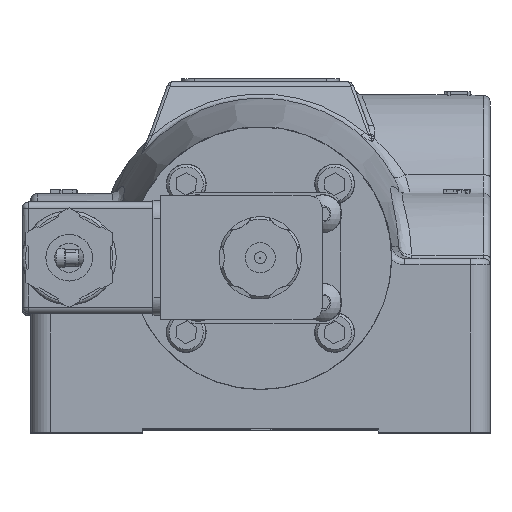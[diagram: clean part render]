
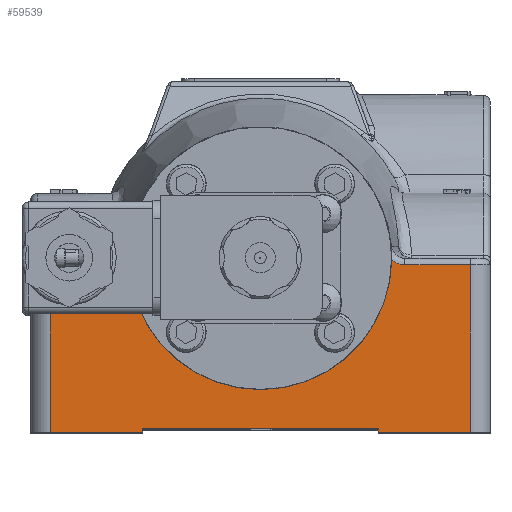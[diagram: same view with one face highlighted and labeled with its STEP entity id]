
A CAD part, top view. The second image highlights one B-rep face of the part: STEP entity #59539.
In plain terms, the highlighted planar face has unit normal (0, 0, 1).
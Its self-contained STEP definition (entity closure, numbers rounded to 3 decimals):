
#1441=B_SPLINE_CURVE_WITH_KNOTS('',3,(#103365,#103366,#103367,#103368,#103369),
 .UNSPECIFIED.,.F.,.F.,(4,1,4),(0.,0.291,0.347),
 .UNSPECIFIED.);
#1448=B_SPLINE_CURVE_WITH_KNOTS('',3,(#103547,#103548,#103549,#103550),
 .UNSPECIFIED.,.F.,.F.,(4,4),(0.356,0.703),
 .UNSPECIFIED.);
#3575=LINE('',#102093,#7318);
#3641=LINE('',#103131,#7384);
#3646=LINE('',#103144,#7389);
#3649=LINE('',#103148,#7392);
#3650=LINE('',#103150,#7393);
#3662=LINE('',#103202,#7405);
#3668=LINE('',#103259,#7411);
#3670=LINE('',#103433,#7413);
#3678=LINE('',#103669,#7421);
#7318=VECTOR('',#75137,2.223);
#7384=VECTOR('',#75389,5.715);
#7389=VECTOR('',#75402,2.223);
#7392=VECTOR('',#75407,0.079);
#7393=VECTOR('',#75410,0.079);
#7405=VECTOR('',#75450,4.048);
#7411=VECTOR('',#75528,1.583);
#7413=VECTOR('',#75536,1.583);
#7421=VECTOR('',#75632,4.048);
#10663=PLANE('',#64593);
#14279=FACE_OUTER_BOUND('',#18325,.T.);
#18325=EDGE_LOOP('',(#45714,#45715,#45716,#45717,#45718,#45719,#45720,#45721,
#45722,#45723,#45724,#45725));
#22027=CIRCLE('',#64464,3.178);
#25917=VERTEX_POINT('',#102077);
#25923=VERTEX_POINT('',#102091);
#25980=VERTEX_POINT('',#103128);
#25981=VERTEX_POINT('',#103130);
#25983=VERTEX_POINT('',#103140);
#25985=VERTEX_POINT('',#103143);
#26002=VERTEX_POINT('',#103201);
#26016=VERTEX_POINT('',#103255);
#26020=VERTEX_POINT('',#103337);
#26025=VERTEX_POINT('',#103426);
#26028=VERTEX_POINT('',#103431);
#26050=VERTEX_POINT('',#103526);
#32515=EDGE_CURVE('',#25917,#25923,#3575,.T.);
#32640=EDGE_CURVE('',#25981,#25980,#3641,.T.);
#32646=EDGE_CURVE('',#25985,#25983,#3646,.T.);
#32649=EDGE_CURVE('',#25923,#25981,#3649,.T.);
#32650=EDGE_CURVE('',#25980,#25985,#3650,.T.);
#32672=EDGE_CURVE('',#25917,#26002,#3662,.T.);
#32701=EDGE_CURVE('',#26002,#26016,#3668,.T.);
#32706=EDGE_CURVE('',#26016,#26020,#1441,.T.);
#32715=EDGE_CURVE('',#26028,#26025,#3670,.T.);
#32751=EDGE_CURVE('',#26050,#26028,#1448,.T.);
#32762=EDGE_CURVE('',#26025,#25983,#3678,.T.);
#32820=EDGE_CURVE('',#26020,#26050,#22027,.T.);
#45714=ORIENTED_EDGE('',*,*,#32646,.T.);
#45715=ORIENTED_EDGE('',*,*,#32762,.F.);
#45716=ORIENTED_EDGE('',*,*,#32715,.F.);
#45717=ORIENTED_EDGE('',*,*,#32751,.F.);
#45718=ORIENTED_EDGE('',*,*,#32820,.F.);
#45719=ORIENTED_EDGE('',*,*,#32706,.F.);
#45720=ORIENTED_EDGE('',*,*,#32701,.F.);
#45721=ORIENTED_EDGE('',*,*,#32672,.F.);
#45722=ORIENTED_EDGE('',*,*,#32515,.T.);
#45723=ORIENTED_EDGE('',*,*,#32649,.T.);
#45724=ORIENTED_EDGE('',*,*,#32640,.T.);
#45725=ORIENTED_EDGE('',*,*,#32650,.T.);
#59539=ADVANCED_FACE('',(#14279),#10663,.T.);
#64464=AXIS2_PLACEMENT_3D('',#104296,#75702,#75703);
#64593=AXIS2_PLACEMENT_3D('',#119058,#76172,#76173);
#75137=DIRECTION('',(1.,0.,0.));
#75389=DIRECTION('',(1.,0.,0.));
#75402=DIRECTION('',(1.,0.,0.));
#75407=DIRECTION('',(0.,1.,0.));
#75410=DIRECTION('',(0.,-1.,0.));
#75450=DIRECTION('',(0.,1.,0.));
#75528=DIRECTION('',(1.,0.,0.));
#75536=DIRECTION('',(1.,0.,0.));
#75632=DIRECTION('',(0.,-1.,0.));
#75702=DIRECTION('center_axis',(0.,0.,1.));
#75703=DIRECTION('ref_axis',(-1.,0.,0.));
#76172=DIRECTION('center_axis',(0.,0.,1.));
#76173=DIRECTION('ref_axis',(1.,0.,0.));
#102077=CARTESIAN_POINT('',(-5.08,-4.207,8.652));
#102091=CARTESIAN_POINT('',(-2.858,-4.207,8.652));
#102093=CARTESIAN_POINT('',(0.,-4.207,8.652));
#103128=CARTESIAN_POINT('',(2.858,-4.128,8.652));
#103130=CARTESIAN_POINT('',(-2.858,-4.128,8.652));
#103131=CARTESIAN_POINT('',(0.,-4.128,8.652));
#103140=CARTESIAN_POINT('',(5.08,-4.207,8.652));
#103143=CARTESIAN_POINT('',(2.858,-4.207,8.652));
#103144=CARTESIAN_POINT('',(0.,-4.207,8.652));
#103148=CARTESIAN_POINT('',(-2.858,-4.247,8.652));
#103150=CARTESIAN_POINT('',(2.858,-4.247,8.652));
#103201=CARTESIAN_POINT('',(-5.08,-0.159,8.652));
#103202=CARTESIAN_POINT('',(-5.08,-3.215,8.652));
#103255=CARTESIAN_POINT('',(-3.497,-0.159,8.652));
#103259=CARTESIAN_POINT('',(0.,-0.159,8.652));
#103337=CARTESIAN_POINT('',(-3.177,-0.037,8.652));
#103365=CARTESIAN_POINT('Ctrl Pts',(-3.497,-0.159,
8.652));
#103366=CARTESIAN_POINT('Ctrl Pts',(-3.4,-0.159,
8.652));
#103367=CARTESIAN_POINT('Ctrl Pts',(-3.283,-0.122,
8.652));
#103368=CARTESIAN_POINT('Ctrl Pts',(-3.192,-0.05,
8.652));
#103369=CARTESIAN_POINT('Ctrl Pts',(-3.178,-0.037,
8.652));
#103426=CARTESIAN_POINT('',(5.08,-0.159,8.652));
#103431=CARTESIAN_POINT('',(3.497,-0.159,8.652));
#103433=CARTESIAN_POINT('',(0.,-0.159,8.652));
#103526=CARTESIAN_POINT('',(3.177,-0.037,8.652));
#103547=CARTESIAN_POINT('Ctrl Pts',(3.178,-0.037,
8.652));
#103548=CARTESIAN_POINT('Ctrl Pts',(3.265,-0.114,
8.652));
#103549=CARTESIAN_POINT('Ctrl Pts',(3.381,-0.159,
8.652));
#103550=CARTESIAN_POINT('Ctrl Pts',(3.497,-0.159,
8.652));
#103669=CARTESIAN_POINT('',(5.08,-3.215,8.652));
#104296=CARTESIAN_POINT('Origin',(0.,0.,8.652));
#119058=CARTESIAN_POINT('Origin',(0.,-4.286,8.652));
